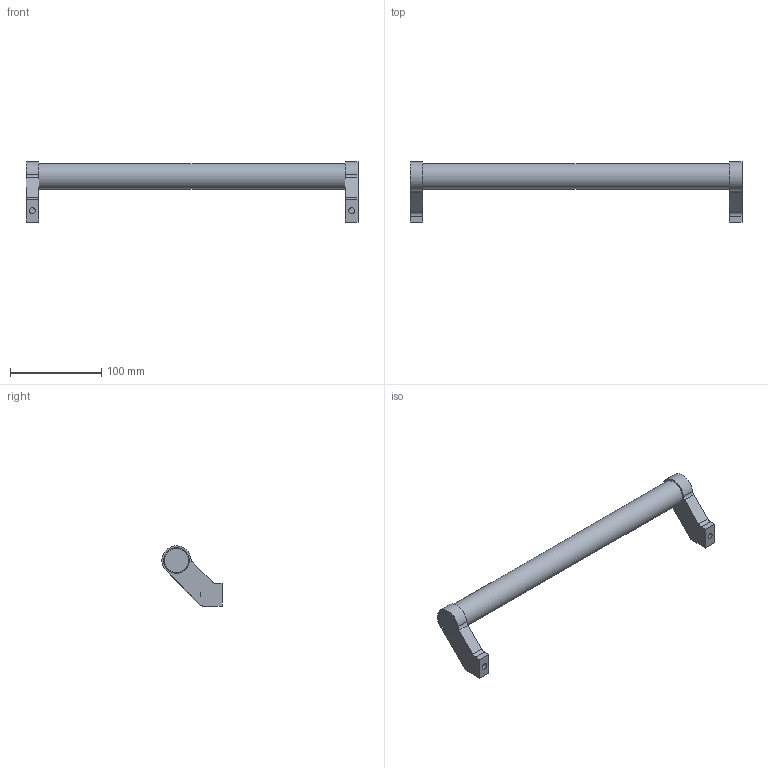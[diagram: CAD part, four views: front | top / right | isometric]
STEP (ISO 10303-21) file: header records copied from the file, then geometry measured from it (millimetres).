
FILE_DESCRIPTION( ( 'STEP AP203' ), '1' );
FILE_NAME( 'C:/Temp/Ganter_Step_05_03_2020/data/1_2/gn333/Tubular handle GN 333-28-350-B-SW.stp', '2020-03-05T10:16:31', ( 'License CC BY-ND 4.0' ), ( 'CADENAS' ), ' ', 'PARTsolutions', ' ' );
FILE_SCHEMA( ( 'CONFIG_CONTROL_DESIGN' ) );
Length unit declared in the file: millimetre
Products named in the file (1): _Tubular handle GN 333-28-350-B-SW
Bounding box: 364 x 65.95 x 65.97 mm (x, y, z)
Volume: 266190.3 mm3; surface area: 46414.4 mm2
Topology: 1 solids, 1 shells, 53 faces, 115 edges, 76 vertices
Faces by surface type: plane 32, cylinder 19, torus 2
Full cylindrical faces by diameter (mm): 6.5 x2, 11 x2, 11.4 x2, 12 x2, 28 x3
Entity records: 1424 total; most frequent: CARTESIAN_POINT 272, DIRECTION 240, ORIENTED_EDGE 196, EDGE_CURVE 98, AXIS2_PLACEMENT_3D 96, EDGE_LOOP 76, VERTEX_POINT 70, FACE_OUTER_BOUND 64
